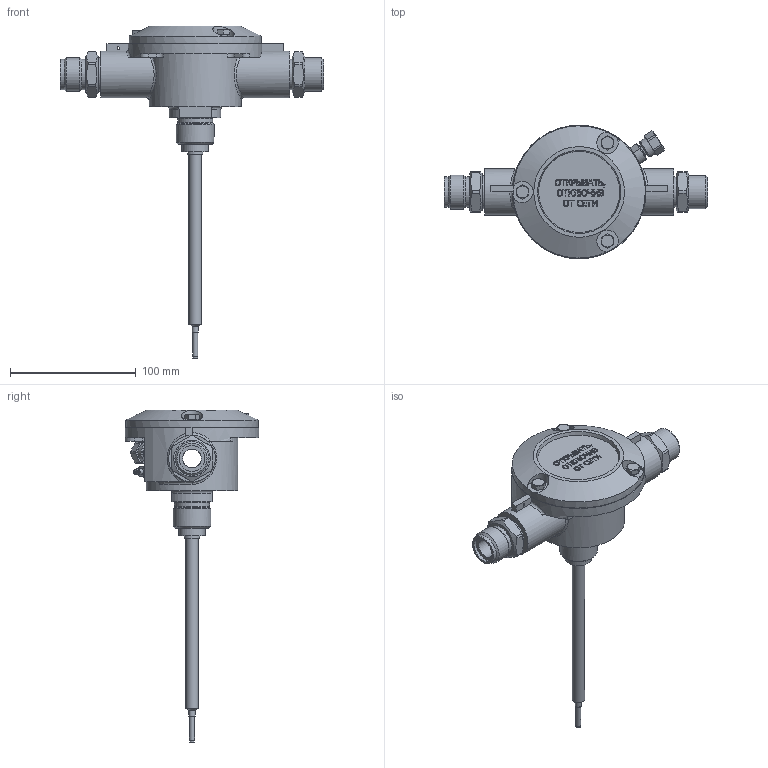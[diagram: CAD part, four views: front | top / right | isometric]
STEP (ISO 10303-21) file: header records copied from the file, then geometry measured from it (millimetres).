
FILE_DESCRIPTION(('STEP AP203'), '1');
FILE_NAME('908.2240.00.000 认101-1耞1', '', ('UNSPECIFIED'), ('UNSPECIFIED'), 'ASCON STEP Converter 1.6', 'ASCON Math Kernel', '');
FILE_SCHEMA(('CONFIG_CONTROL_DESIGN'));
Length unit declared in the file: millimetre
Products named in the file (12): 908.2258.00.001 Корпус; 908.2258.00.002 Крышка; 908.2013.00.012-02 Штуцер; 908.2258.00.004 Корпус; 908.2242.00.003 Гайка; 908.2258.00.008; Шайба 5 Бр.\X2\041A
041C0446\X0\3-1.136 ГОСТ 6402-70; Гайка M5-6H32ЛС59
-1.136 ГОСТ 5915; Шайба 5.32ЛС59-1.
136 ГОСТ 11371-78
Assembly tree (16 placements, depth 2):
  (unnamed)
    908.2258.00.001 Корпус
    908.2258.00.002 Крышка
    (unnamed)
    908.2013.00.012-02 Штуцер  x2
    908.2258.00.004 Корпус
    908.2242.00.003 Гайка
    908.2258.00.008
    Шайба 5 Бр.\X2\041A
041C0446\X0\3-1.136 ГОСТ 6402-70
    Гайка M5-6H32ЛС59
-1.136 ГОСТ 5915  x2
    Шайба 5.32ЛС59-1.
136 ГОСТ 11371-78  x2
    (unnamed)  x3
Bounding box: 209 x 106 x 263.6 mm (x, y, z)
Volume: 344733 mm3; surface area: 117209.3 mm2
Topology: 17 solids, 17 shells, 802 faces, 2071 edges, 1381 vertices
Faces by surface type: plane 422, bspline 149, cylinder 124, cone 85, torus 22
Full cylindrical faces by diameter (mm): 2 x1, 3.2 x1, 3.242 x3, 3.8 x1, 4 x3, 4.134 x4, 4.917 x3, 5 x3, 5.3 x2, 5.5 x1, 6 x4, 6.5 x4, 8 x1, 9.8 x2, 10 x4, 10.376 x2, 12 x3, 12.7 x1, 15 x6, 16 x2, 20.5 x2, 21 x1, 23.85 x2, 24 x4, 24.835 x2, 26.39 x2, 27 x2, 27.8 x1, 30 x1, 37 x2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
Entity records: 31404 total; most frequent: CARTESIAN_POINT 8475, ORIENTED_EDGE 3500, DIRECTION 2912, EDGE_CURVE 1750, VERTEX_POINT 1253, AXIS2_PLACEMENT_3D 980, LINE 952, VECTOR 952
